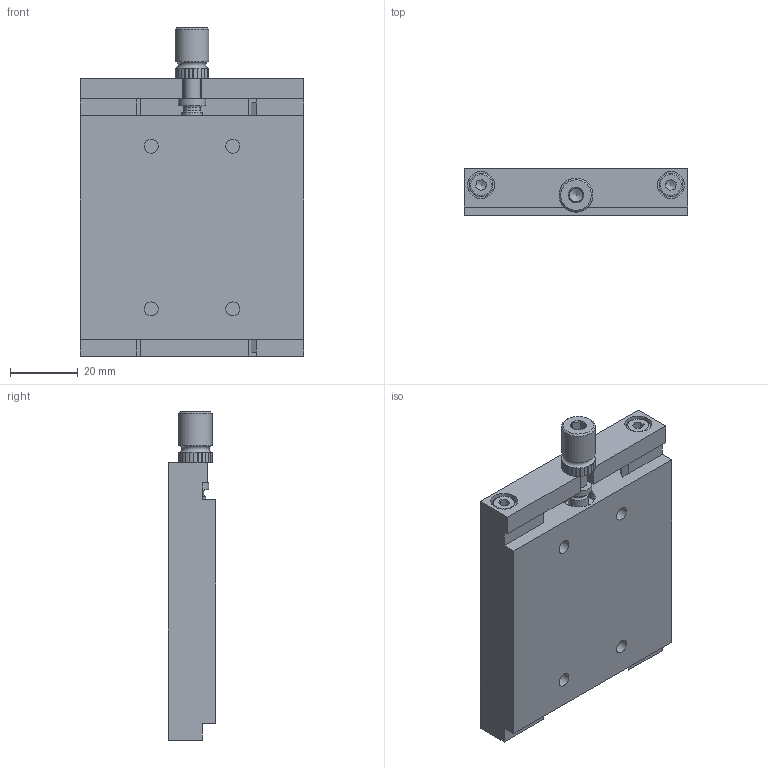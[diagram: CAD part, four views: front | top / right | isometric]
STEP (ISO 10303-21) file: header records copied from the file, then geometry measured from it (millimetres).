
FILE_DESCRIPTION((''),'2;1');
FILE_NAME('M:\Machines\_PLANS\7150000\BLOCS_STEP\CL66.stp','2015-04-14T13:11:54',('miemmola'),(''),'Autodesk Inventor 2012','Autodesk Inventor 2012','');
FILE_SCHEMA(('AUTOMOTIVE_DESIGN { 1 0 10303 214 1 1 1 1 }'));
Length unit declared in the file: millimetre
Products named in the file (1): 7150000_Enveloppe_1
Bounding box: 66 x 14 x 97 mm (x, y, z)
Volume: 67547.2 mm3; surface area: 25317.4 mm2
Topology: 1 solids, 5 shells, 220 faces, 589 edges, 383 vertices
Faces by surface type: plane 137, cylinder 58, cone 18, torus 7
Full cylindrical faces by diameter (mm): 2.459 x3, 2.5 x3, 3.242 x2, 4 x2, 4.134 x4, 4.3 x2, 5 x2, 6 x2, 7 x2, 8 x8, 10 x1
Entity records: 6743 total; most frequent: CARTESIAN_POINT 1336, DIRECTION 1034, ORIENTED_EDGE 1032, EDGE_CURVE 516, AXIS2_PLACEMENT_3D 372, VERTEX_POINT 360, EDGE_LOOP 296, VECTOR 290
